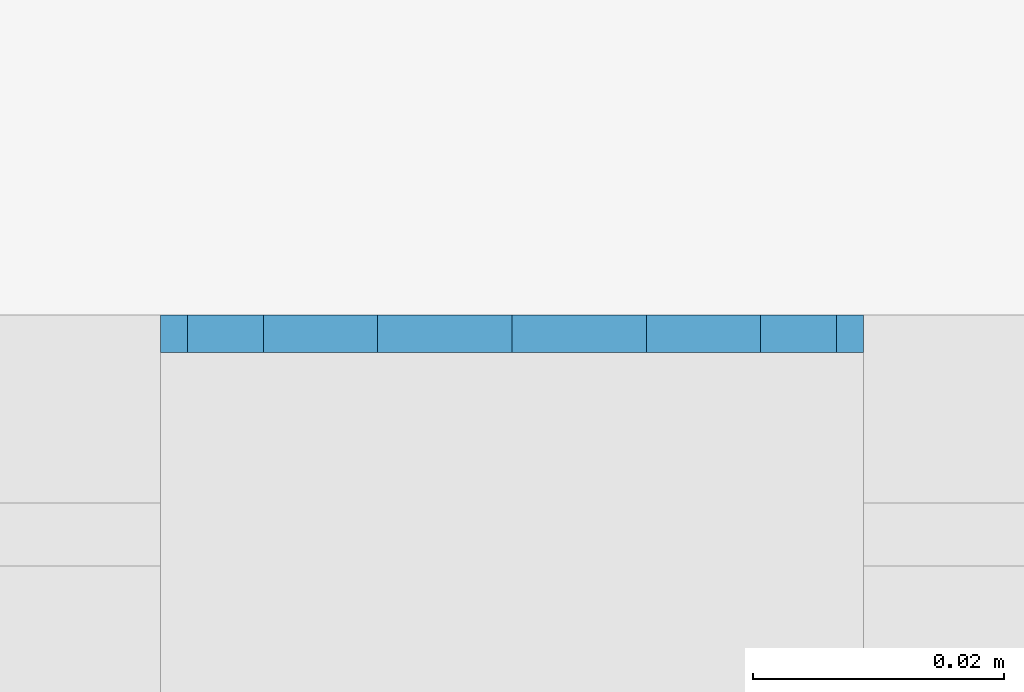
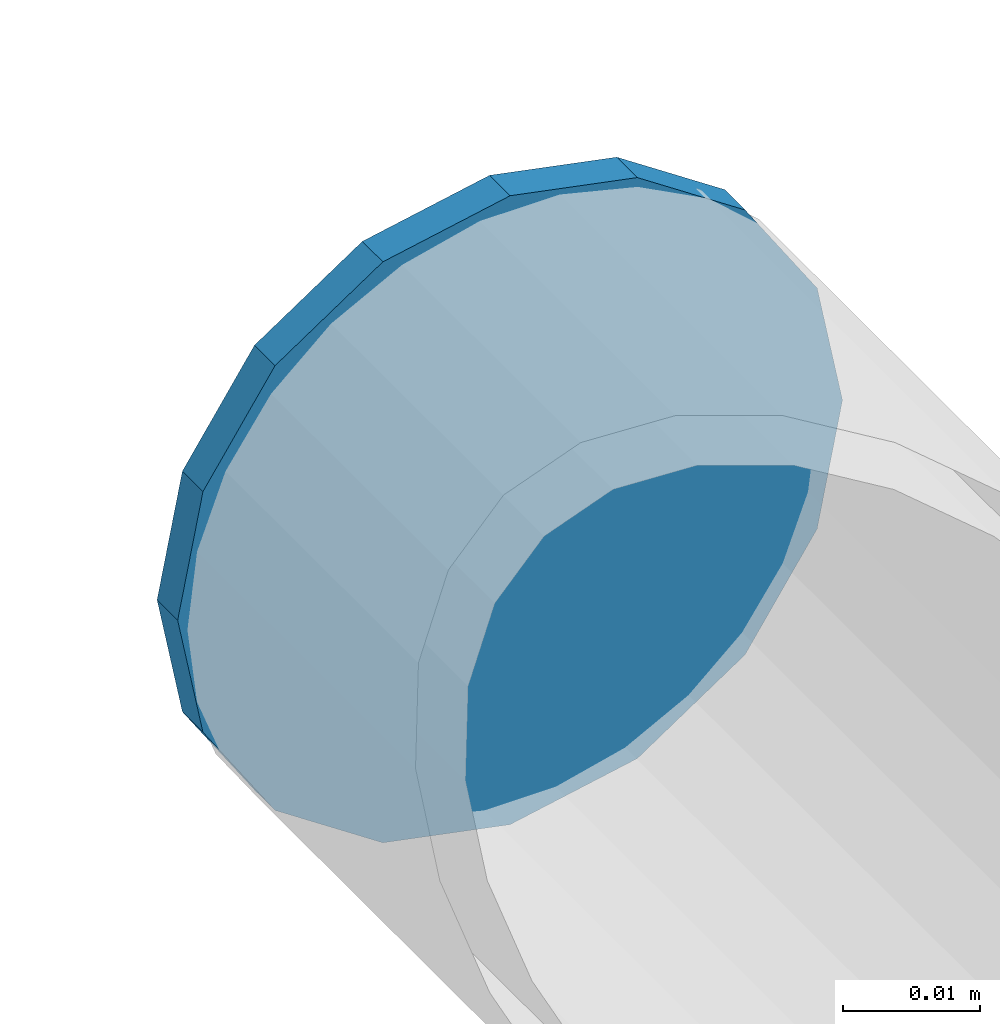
# One storey, part 113 of 186: 1 beam.
"""IFC4X3_ADD2 building model written with IfcOpenShell, lengths in millimetres."""

from ifc_helpers import new_model, si_unit, direction, frame, origin_with_axes, place, context, subcontext, project, spatial, indexed_curve, outline, extrude, material, element, save


model = new_model("IFC4X3_ADD2")

# Units and contexts
model_context = context("Model", 3, precision=1e-05, world=origin_with_axes(), true_north=direction((0.0, 1.0)))
body_context = subcontext(model_context, "Body", "Model", "MODEL_VIEW")
ifc_project = project(units=[si_unit("LENGTHUNIT", "METRE", prefix="MILLI"), si_unit("AREAUNIT", "SQUARE_METRE"), si_unit("VOLUMEUNIT", "CUBIC_METRE"), si_unit("PLANEANGLEUNIT", "RADIAN"), si_unit("TIMEUNIT", "SECOND"), si_unit("MASSUNIT", "GRAM")], contexts=[model_context])

# Site, building, storey
site_placement = place(None, origin_with_axes())
site = spatial("IfcSite", under=ifc_project, at=site_placement, Name="Site", CompositionType="ELEMENT")
building_placement = place(site_placement, origin_with_axes())
building = spatial("IfcBuilding", under=site, at=building_placement, Name="IFC Building Story")
storey_placement = place(building_placement, frame((0.0, 0.0, 4370.0), z_axis=(0.0, 0.0, 1.0), x_axis=(1.0, 0.0, 0.0)))
storey = spatial("IfcBuildingStorey", under=building, at=storey_placement, Name="ETAGE 10 (1)", Elevation=4370.0)

# Beam
ifc_material = material(Name="STEEL/Accessory 22919")
beam_placement = place(storey_placement, frame((48311.18887329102, 26549.99896240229, 1329.999999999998), z_axis=(0.0, -1.0, 0.0), x_axis=(0.5555702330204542, 0.0, -0.831469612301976)))
element("IfcBeam", 1, at=beam_placement, inside=storey, material=ifc_material, Name="TA4", ObjectType="D56", context=body_context, shape_type="SweptSolid", body=[
    extrude(outline(indexed_curve([(23.28114914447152, 15.55596652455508), (27.46198785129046, 5.462529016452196), (27.46198785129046, -5.462529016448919), (23.28114914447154, -15.55596652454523), (15.55596652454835, -23.28114914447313), (5.462529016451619, -27.46198785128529), (-5.462529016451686, -27.46198785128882), (-15.55596652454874, -23.28114914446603), (-23.2811491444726, -15.55596652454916), (-27.46198785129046, -5.462529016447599), (-27.46198785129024, 5.462529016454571), (-23.28114914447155, 15.55596652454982), (-15.55596652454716, 23.28114914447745), (-5.462529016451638, 27.46198785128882), (5.462529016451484, 27.46198785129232), (15.55596652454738, 23.28114914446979), (23.28114914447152, 15.55596652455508)])), origin_with_axes(), (0.0, 0.0, 1.0), 2.999999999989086),
])

save(model, "model.ifc")
